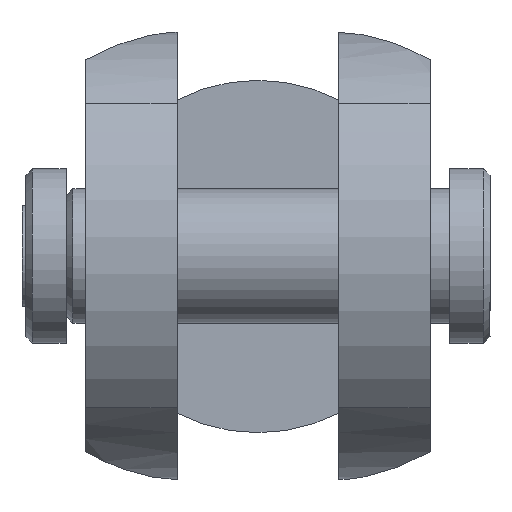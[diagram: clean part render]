
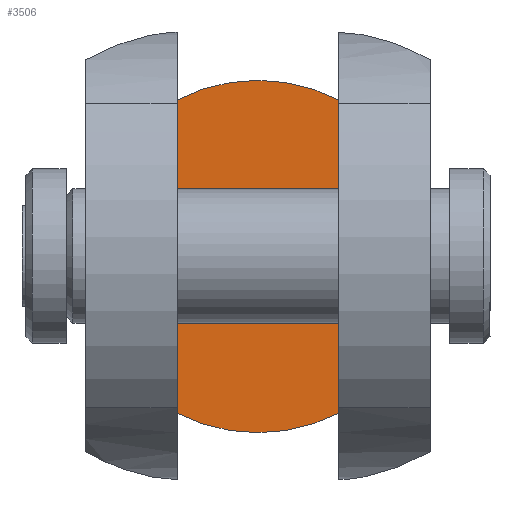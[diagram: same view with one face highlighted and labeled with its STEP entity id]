
A CAD part, top view. The second image highlights one B-rep face of the part: STEP entity #3506.
In plain terms, the highlighted planar face has unit normal (0, 0, 1).
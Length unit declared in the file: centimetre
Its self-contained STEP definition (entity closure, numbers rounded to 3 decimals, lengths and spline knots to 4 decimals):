
#121=LINE('',#5014,#477);
#122=LINE('',#5015,#478);
#477=VECTOR('',#4036,2.3279);
#478=VECTOR('',#4037,2.3279);
#828=PLANE('',#3730);
#1052=FACE_OUTER_BOUND('',#1270,.T.);
#1270=EDGE_LOOP('',(#2428,#2429,#2430,#2431));
#1473=CIRCLE('',#3699,1.3095);
#1474=CIRCLE('',#3700,1.3095);
#1537=VERTEX_POINT('',#4875);
#1538=VERTEX_POINT('',#4879);
#1543=VERTEX_POINT('',#4911);
#1544=VERTEX_POINT('',#4915);
#1868=EDGE_CURVE('',#1537,#1538,#1473,.T.);
#1874=EDGE_CURVE('',#1543,#1544,#1474,.T.);
#1906=EDGE_CURVE('',#1537,#1544,#121,.T.);
#1907=EDGE_CURVE('',#1538,#1543,#122,.T.);
#2428=ORIENTED_EDGE('',*,*,#1868,.F.);
#2429=ORIENTED_EDGE('',*,*,#1906,.T.);
#2430=ORIENTED_EDGE('',*,*,#1874,.F.);
#2431=ORIENTED_EDGE('',*,*,#1907,.F.);
#3506=ADVANCED_FACE('',(#1052),#828,.F.);
#3699=AXIS2_PLACEMENT_3D('',#4880,#3960,#3961);
#3700=AXIS2_PLACEMENT_3D('',#4916,#3962,#3963);
#3730=AXIS2_PLACEMENT_3D('',#5013,#4034,#4035);
#3960=DIRECTION('center_axis',(0.,0.,
-1.));
#3961=DIRECTION('ref_axis',(0.,-1.,0.));
#3962=DIRECTION('center_axis',(0.,0.,
-1.));
#3963=DIRECTION('ref_axis',(0.,-1.,0.));
#4034=DIRECTION('center_axis',(0.,0.,
-1.));
#4035=DIRECTION('ref_axis',(-1.,0.,0.));
#4036=DIRECTION('',(0.,1.,0.));
#4037=DIRECTION('',(0.,1.,0.));
#4875=CARTESIAN_POINT('',(0.6,-1.1639,-2.25));
#4879=CARTESIAN_POINT('',(-0.6,-1.1639,-2.25));
#4880=CARTESIAN_POINT('Origin',(0.,0.,
-2.25));
#4911=CARTESIAN_POINT('',(-0.6,1.1639,-2.25));
#4915=CARTESIAN_POINT('',(0.6,1.1639,-2.25));
#4916=CARTESIAN_POINT('Origin',(0.,0.,
-2.25));
#5013=CARTESIAN_POINT('Origin',(0.6,0.,-2.25));
#5014=CARTESIAN_POINT('',(0.6,0.,-2.25));
#5015=CARTESIAN_POINT('',(-0.6,0.,-2.25));
